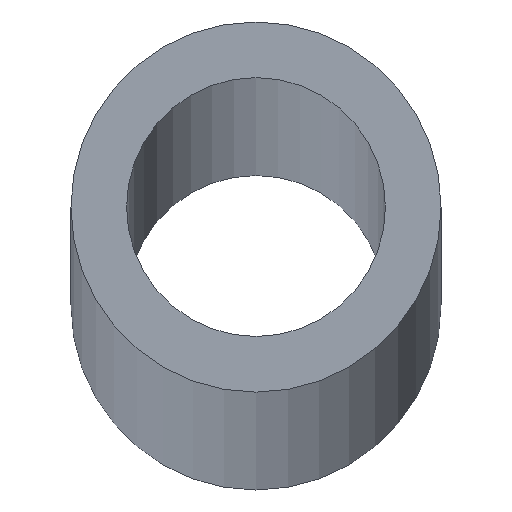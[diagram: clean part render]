
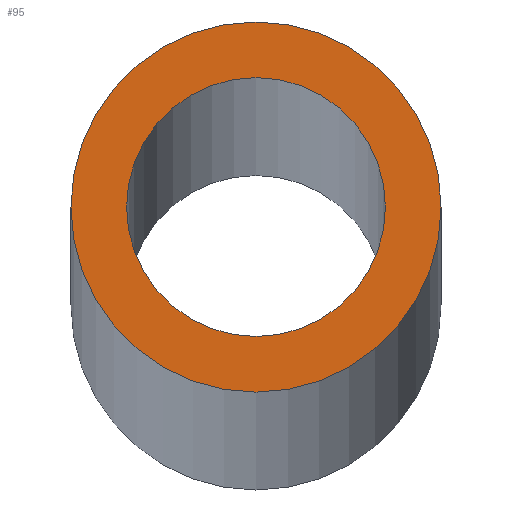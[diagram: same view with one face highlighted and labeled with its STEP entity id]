
A CAD part, top view. The second image highlights one B-rep face of the part: STEP entity #95.
In plain terms, the highlighted planar face has unit normal (0, 0, 1).
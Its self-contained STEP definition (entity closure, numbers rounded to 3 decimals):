
#24 = VERTEX_POINT('',#25);
#25 = CARTESIAN_POINT('',(4.521,0.,1370.13));
#31 = EDGE_CURVE('',#24,#24,#32,.T.);
#32 = CIRCLE('',#33,4.521);
#33 = AXIS2_PLACEMENT_3D('',#34,#35,#36);
#34 = CARTESIAN_POINT('',(0.,0.,1370.13));
#35 = DIRECTION('',(0.,0.,1.));
#36 = DIRECTION('',(1.,0.,0.));
#57 = VERTEX_POINT('',#58);
#58 = CARTESIAN_POINT('',(3.162,0.,1370.13));
#64 = EDGE_CURVE('',#57,#57,#65,.T.);
#65 = CIRCLE('',#66,3.162);
#66 = AXIS2_PLACEMENT_3D('',#67,#68,#69);
#67 = CARTESIAN_POINT('',(0.,0.,1370.13));
#68 = DIRECTION('',(0.,0.,1.));
#69 = DIRECTION('',(1.,0.,0.));
#95 = ADVANCED_FACE('',(#96,#99),#102,.T.);
#96 = FACE_BOUND('',#97,.T.);
#97 = EDGE_LOOP('',(#98));
#98 = ORIENTED_EDGE('',*,*,#31,.T.);
#99 = FACE_BOUND('',#100,.F.);
#100 = EDGE_LOOP('',(#101));
#101 = ORIENTED_EDGE('',*,*,#64,.T.);
#102 = PLANE('',#103);
#103 = AXIS2_PLACEMENT_3D('',#104,#105,#106);
#104 = CARTESIAN_POINT('',(0.,0.,1370.13));
#105 = DIRECTION('',(0.,0.,1.));
#106 = DIRECTION('',(1.,0.,0.));
